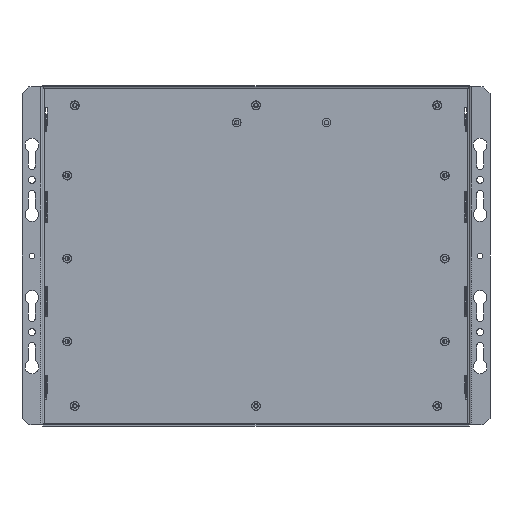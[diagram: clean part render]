
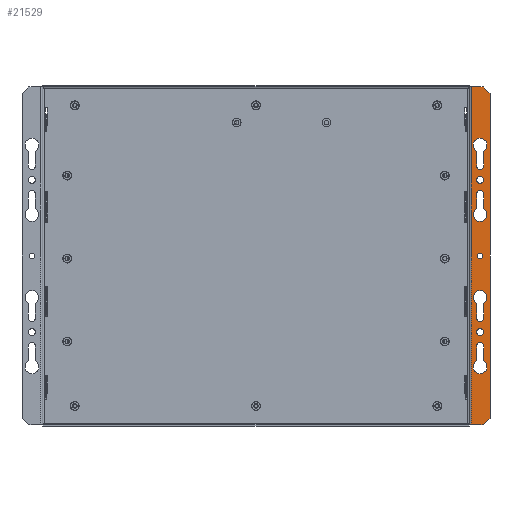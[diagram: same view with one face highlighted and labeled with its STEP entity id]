
A CAD part, front view. The second image highlights one B-rep face of the part: STEP entity #21529.
In plain terms, the highlighted planar face has unit normal (0, -1, 0).
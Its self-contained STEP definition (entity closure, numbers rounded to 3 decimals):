
#18742=CARTESIAN_POINT('',(162.,0.,-65.));
#18743=DIRECTION('',(0.,1.,0.));
#18744=DIRECTION('',(-1.,0.,0.));
#18745=AXIS2_PLACEMENT_3D('',#18742,#18743,#18744);
#18747=DIRECTION('',(0.,0.,-1.));
#18748=VECTOR('',#18747,10.67);
#18749=CARTESIAN_POINT('',(159.5,0.,-65.));
#18750=LINE('',#18749,#18748);
#18751=CARTESIAN_POINT('',(162.,0.,-80.));
#18752=DIRECTION('',(0.,1.,0.));
#18753=DIRECTION('',(0.5,0.,0.866));
#18754=AXIS2_PLACEMENT_3D('',#18751,#18752,#18753);
#18756=DIRECTION('',(0.,0.,1.));
#18757=VECTOR('',#18756,10.67);
#18758=CARTESIAN_POINT('',(164.5,0.,-75.67));
#18759=LINE('',#18758,#18757);
#18760=CARTESIAN_POINT('',(162.,0.,45.));
#18761=DIRECTION('',(0.,1.,0.));
#18762=DIRECTION('',(-1.,0.,0.));
#18763=AXIS2_PLACEMENT_3D('',#18760,#18761,#18762);
#18765=DIRECTION('',(0.,0.,-1.));
#18766=VECTOR('',#18765,10.67);
#18767=CARTESIAN_POINT('',(159.5,0.,45.));
#18768=LINE('',#18767,#18766);
#18769=CARTESIAN_POINT('',(162.,0.,30.));
#18770=DIRECTION('',(0.,1.,0.));
#18771=DIRECTION('',(0.5,0.,0.866));
#18772=AXIS2_PLACEMENT_3D('',#18769,#18770,#18771);
#18774=DIRECTION('',(0.,0.,1.));
#18775=VECTOR('',#18774,10.67);
#18776=CARTESIAN_POINT('',(164.5,0.,34.33));
#18777=LINE('',#18776,#18775);
#18778=CARTESIAN_POINT('',(162.,0.,-55.));
#18779=DIRECTION('',(0.,1.,0.));
#18780=DIRECTION('',(1.,0.,0.));
#18781=AXIS2_PLACEMENT_3D('',#18778,#18779,#18780);
#18783=CARTESIAN_POINT('',(162.,0.,-55.));
#18784=DIRECTION('',(0.,1.,0.));
#18785=DIRECTION('',(-1.,0.,0.));
#18786=AXIS2_PLACEMENT_3D('',#18783,#18784,#18785);
#18788=CARTESIAN_POINT('',(162.,0.,55.));
#18789=DIRECTION('',(0.,1.,0.));
#18790=DIRECTION('',(1.,0.,0.));
#18791=AXIS2_PLACEMENT_3D('',#18788,#18789,#18790);
#18793=CARTESIAN_POINT('',(162.,0.,55.));
#18794=DIRECTION('',(0.,1.,0.));
#18795=DIRECTION('',(-1.,0.,0.));
#18796=AXIS2_PLACEMENT_3D('',#18793,#18794,#18795);
#18798=DIRECTION('',(0.,0.,1.));
#18799=VECTOR('',#18798,10.67);
#18800=CARTESIAN_POINT('',(164.5,0.,-45.));
#18801=LINE('',#18800,#18799);
#18802=CARTESIAN_POINT('',(162.,0.,-30.));
#18803=DIRECTION('',(0.,1.,0.));
#18804=DIRECTION('',(-0.5,0.,-0.866));
#18805=AXIS2_PLACEMENT_3D('',#18802,#18803,#18804);
#18807=DIRECTION('',(0.,0.,-1.));
#18808=VECTOR('',#18807,10.67);
#18809=CARTESIAN_POINT('',(159.5,0.,-34.33));
#18810=LINE('',#18809,#18808);
#18811=CARTESIAN_POINT('',(162.,0.,-45.));
#18812=DIRECTION('',(0.,1.,0.));
#18813=DIRECTION('',(1.,0.,0.));
#18814=AXIS2_PLACEMENT_3D('',#18811,#18812,#18813);
#18816=DIRECTION('',(0.,0.,1.));
#18817=VECTOR('',#18816,10.67);
#18818=CARTESIAN_POINT('',(164.5,0.,65.));
#18819=LINE('',#18818,#18817);
#18820=CARTESIAN_POINT('',(162.,0.,80.));
#18821=DIRECTION('',(0.,1.,0.));
#18822=DIRECTION('',(-0.5,0.,-0.866));
#18823=AXIS2_PLACEMENT_3D('',#18820,#18821,#18822);
#18825=DIRECTION('',(0.,0.,-1.));
#18826=VECTOR('',#18825,10.67);
#18827=CARTESIAN_POINT('',(159.5,0.,75.67));
#18828=LINE('',#18827,#18826);
#18829=CARTESIAN_POINT('',(162.,0.,65.));
#18830=DIRECTION('',(0.,1.,0.));
#18831=DIRECTION('',(1.,0.,0.));
#18832=AXIS2_PLACEMENT_3D('',#18829,#18830,#18831);
#18834=DIRECTION('',(-0.707,0.,0.707));
#18835=VECTOR('',#18834,7.071);
#18836=CARTESIAN_POINT('',(169.2,0.,117.2));
#18837=LINE('',#18836,#18835);
#18838=DIRECTION('',(0.,0.,1.));
#18839=VECTOR('',#18838,234.4);
#18840=CARTESIAN_POINT('',(169.2,0.,-117.2));
#18841=LINE('',#18840,#18839);
#18842=DIRECTION('',(0.707,0.,0.707));
#18843=VECTOR('',#18842,7.071);
#18844=CARTESIAN_POINT('',(164.2,0.,-122.2));
#18845=LINE('',#18844,#18843);
#18846=DIRECTION('',(1.,0.,0.));
#18847=VECTOR('',#18846,8.4);
#18848=CARTESIAN_POINT('',(155.8,0.,-122.2));
#18849=LINE('',#18848,#18847);
#18850=DIRECTION('',(-1.,0.,0.));
#18851=VECTOR('',#18850,8.4);
#18852=CARTESIAN_POINT('',(164.2,0.,122.2));
#18853=LINE('',#18852,#18851);
#18854=CARTESIAN_POINT('',(162.,0.,0.));
#18855=DIRECTION('',(0.,-1.,0.));
#18856=DIRECTION('',(1.,0.,0.));
#18857=AXIS2_PLACEMENT_3D('',#18854,#18855,#18856);
#18859=CARTESIAN_POINT('',(162.,0.,0.));
#18860=DIRECTION('',(0.,-1.,0.));
#18861=DIRECTION('',(-1.,0.,0.));
#18862=AXIS2_PLACEMENT_3D('',#18859,#18860,#18861);
#18864=DIRECTION('',(0.,0.,-1.));
#18865=VECTOR('',#18864,244.4);
#18866=CARTESIAN_POINT('',(155.8,0.,122.2));
#18867=LINE('',#18866,#18865);
#19298=CARTESIAN_POINT('',(155.8,0.,122.2));
#19299=CARTESIAN_POINT('',(155.8,0.,-122.2));
#19300=VERTEX_POINT('',#19298);
#19301=VERTEX_POINT('',#19299);
#19330=CARTESIAN_POINT('',(164.5,0.,65.));
#19331=CARTESIAN_POINT('',(164.5,0.,75.67));
#19332=VERTEX_POINT('',#19330);
#19333=VERTEX_POINT('',#19331);
#19334=CARTESIAN_POINT('',(159.5,0.,75.67));
#19335=VERTEX_POINT('',#19334);
#19336=CARTESIAN_POINT('',(159.5,0.,65.));
#19337=VERTEX_POINT('',#19336);
#19338=CARTESIAN_POINT('',(164.5,0.,-45.));
#19339=CARTESIAN_POINT('',(164.5,0.,-34.33));
#19340=VERTEX_POINT('',#19338);
#19341=VERTEX_POINT('',#19339);
#19342=CARTESIAN_POINT('',(159.5,0.,-34.33));
#19343=VERTEX_POINT('',#19342);
#19344=CARTESIAN_POINT('',(159.5,0.,-45.));
#19345=VERTEX_POINT('',#19344);
#19362=CARTESIAN_POINT('',(169.2,0.,117.2));
#19363=CARTESIAN_POINT('',(164.2,0.,122.2));
#19364=VERTEX_POINT('',#19362);
#19365=VERTEX_POINT('',#19363);
#19370=CARTESIAN_POINT('',(164.2,0.,-122.2));
#19371=CARTESIAN_POINT('',(169.2,0.,-117.2));
#19372=VERTEX_POINT('',#19370);
#19373=VERTEX_POINT('',#19371);
#19482=CARTESIAN_POINT('',(164.5,0.,55.));
#19483=CARTESIAN_POINT('',(159.5,0.,55.));
#19484=VERTEX_POINT('',#19482);
#19485=VERTEX_POINT('',#19483);
#19486=CARTESIAN_POINT('',(164.5,0.,-55.));
#19487=CARTESIAN_POINT('',(159.5,0.,-55.));
#19488=VERTEX_POINT('',#19486);
#19489=VERTEX_POINT('',#19487);
#19490=CARTESIAN_POINT('',(159.5,0.,45.));
#19491=CARTESIAN_POINT('',(164.5,0.,45.));
#19492=VERTEX_POINT('',#19490);
#19493=VERTEX_POINT('',#19491);
#19494=CARTESIAN_POINT('',(159.5,0.,34.33));
#19495=VERTEX_POINT('',#19494);
#19496=CARTESIAN_POINT('',(164.5,0.,34.33));
#19497=VERTEX_POINT('',#19496);
#19498=CARTESIAN_POINT('',(159.5,0.,-65.));
#19499=CARTESIAN_POINT('',(164.5,0.,-65.));
#19500=VERTEX_POINT('',#19498);
#19501=VERTEX_POINT('',#19499);
#19502=CARTESIAN_POINT('',(159.5,0.,-75.67));
#19503=VERTEX_POINT('',#19502);
#19504=CARTESIAN_POINT('',(164.5,0.,-75.67));
#19505=VERTEX_POINT('',#19504);
#19506=CARTESIAN_POINT('',(164.,0.,0.));
#19507=CARTESIAN_POINT('',(160.,0.,0.));
#19508=VERTEX_POINT('',#19506);
#19509=VERTEX_POINT('',#19507);
#21452=CARTESIAN_POINT('',(154.2,0.,64.131));
#21453=DIRECTION('',(0.,-1.,0.));
#21454=DIRECTION('',(0.,0.,1.));
#21455=AXIS2_PLACEMENT_3D('',#21452,#21453,#21454);
#21456=PLANE('',#21455);
#21458=ORIENTED_EDGE('',*,*,#21457,.F.);
#21460=ORIENTED_EDGE('',*,*,#21459,.F.);
#21462=ORIENTED_EDGE('',*,*,#21461,.F.);
#21464=ORIENTED_EDGE('',*,*,#21463,.F.);
#21466=ORIENTED_EDGE('',*,*,#21465,.F.);
#21468=ORIENTED_EDGE('',*,*,#21467,.F.);
#21469=EDGE_LOOP('',(#21458,#21460,#21462,#21464,#21466,#21468));
#21470=FACE_OUTER_BOUND('',#21469,.F.);
#21472=ORIENTED_EDGE('',*,*,#21471,.F.);
#21474=ORIENTED_EDGE('',*,*,#21473,.T.);
#21476=ORIENTED_EDGE('',*,*,#21475,.F.);
#21478=ORIENTED_EDGE('',*,*,#21477,.T.);
#21479=EDGE_LOOP('',(#21472,#21474,#21476,#21478));
#21480=FACE_BOUND('',#21479,.F.);
#21482=ORIENTED_EDGE('',*,*,#21481,.F.);
#21484=ORIENTED_EDGE('',*,*,#21483,.F.);
#21485=EDGE_LOOP('',(#21482,#21484));
#21486=FACE_BOUND('',#21485,.F.);
#21488=ORIENTED_EDGE('',*,*,#21487,.F.);
#21490=ORIENTED_EDGE('',*,*,#21489,.F.);
#21491=EDGE_LOOP('',(#21488,#21490));
#21492=FACE_BOUND('',#21491,.F.);
#21494=ORIENTED_EDGE('',*,*,#21493,.T.);
#21496=ORIENTED_EDGE('',*,*,#21495,.F.);
#21498=ORIENTED_EDGE('',*,*,#21497,.T.);
#21500=ORIENTED_EDGE('',*,*,#21499,.F.);
#21501=EDGE_LOOP('',(#21494,#21496,#21498,#21500));
#21502=FACE_BOUND('',#21501,.F.);
#21504=ORIENTED_EDGE('',*,*,#21503,.T.);
#21506=ORIENTED_EDGE('',*,*,#21505,.F.);
#21508=ORIENTED_EDGE('',*,*,#21507,.T.);
#21510=ORIENTED_EDGE('',*,*,#21509,.F.);
#21511=EDGE_LOOP('',(#21504,#21506,#21508,#21510));
#21512=FACE_BOUND('',#21511,.F.);
#21514=ORIENTED_EDGE('',*,*,#21513,.F.);
#21516=ORIENTED_EDGE('',*,*,#21515,.T.);
#21518=ORIENTED_EDGE('',*,*,#21517,.F.);
#21520=ORIENTED_EDGE('',*,*,#21519,.T.);
#21521=EDGE_LOOP('',(#21514,#21516,#21518,#21520));
#21522=FACE_BOUND('',#21521,.F.);
#21524=ORIENTED_EDGE('',*,*,#21523,.T.);
#21526=ORIENTED_EDGE('',*,*,#21525,.T.);
#21527=EDGE_LOOP('',(#21524,#21526));
#21528=FACE_BOUND('',#21527,.F.);
#18746=CIRCLE('',#18745,2.5);
#18755=CIRCLE('',#18754,5.);
#18764=CIRCLE('',#18763,2.5);
#18773=CIRCLE('',#18772,5.);
#18782=CIRCLE('',#18781,2.5);
#18787=CIRCLE('',#18786,2.5);
#18792=CIRCLE('',#18791,2.5);
#18797=CIRCLE('',#18796,2.5);
#18806=CIRCLE('',#18805,5.);
#18815=CIRCLE('',#18814,2.5);
#18824=CIRCLE('',#18823,5.);
#18833=CIRCLE('',#18832,2.5);
#18858=CIRCLE('',#18857,2.);
#18863=CIRCLE('',#18862,2.);
#21457=EDGE_CURVE('',#19364,#19365,#18837,.T.);
#21459=EDGE_CURVE('',#19373,#19364,#18841,.T.);
#21461=EDGE_CURVE('',#19372,#19373,#18845,.T.);
#21463=EDGE_CURVE('',#19301,#19372,#18849,.T.);
#21465=EDGE_CURVE('',#19300,#19301,#18867,.T.);
#21467=EDGE_CURVE('',#19365,#19300,#18853,.T.);
#21471=EDGE_CURVE('',#19492,#19493,#18764,.T.);
#21473=EDGE_CURVE('',#19492,#19495,#18768,.T.);
#21475=EDGE_CURVE('',#19497,#19495,#18773,.T.);
#21477=EDGE_CURVE('',#19497,#19493,#18777,.T.);
#21481=EDGE_CURVE('',#19488,#19489,#18782,.T.);
#21483=EDGE_CURVE('',#19489,#19488,#18787,.T.);
#21487=EDGE_CURVE('',#19484,#19485,#18792,.T.);
#21489=EDGE_CURVE('',#19485,#19484,#18797,.T.);
#21493=EDGE_CURVE('',#19340,#19341,#18801,.T.);
#21495=EDGE_CURVE('',#19343,#19341,#18806,.T.);
#21497=EDGE_CURVE('',#19343,#19345,#18810,.T.);
#21499=EDGE_CURVE('',#19340,#19345,#18815,.T.);
#21503=EDGE_CURVE('',#19332,#19333,#18819,.T.);
#21505=EDGE_CURVE('',#19335,#19333,#18824,.T.);
#21507=EDGE_CURVE('',#19335,#19337,#18828,.T.);
#21509=EDGE_CURVE('',#19332,#19337,#18833,.T.);
#21513=EDGE_CURVE('',#19500,#19501,#18746,.T.);
#21515=EDGE_CURVE('',#19500,#19503,#18750,.T.);
#21517=EDGE_CURVE('',#19505,#19503,#18755,.T.);
#21519=EDGE_CURVE('',#19505,#19501,#18759,.T.);
#21523=EDGE_CURVE('',#19508,#19509,#18858,.T.);
#21525=EDGE_CURVE('',#19509,#19508,#18863,.T.);
#21529=ADVANCED_FACE('',(#21470,#21480,#21486,#21492,#21502,#21512,#21522,
#21528),#21456,.T.);
